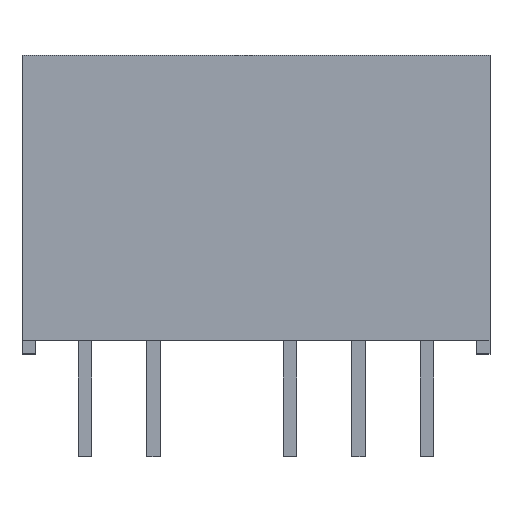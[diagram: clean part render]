
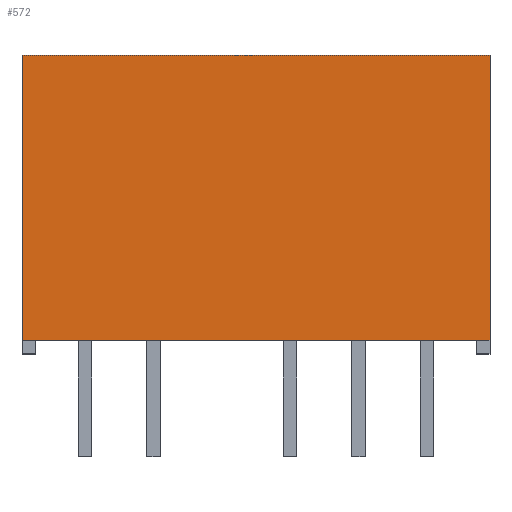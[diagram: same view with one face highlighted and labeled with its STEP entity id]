
A CAD part, top view. The second image highlights one B-rep face of the part: STEP entity #572.
In plain terms, the highlighted planar face has unit normal (0, 0, 1).
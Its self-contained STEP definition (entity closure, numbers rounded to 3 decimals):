
#138 = PLANE('',#139);
#139 = AXIS2_PLACEMENT_3D('',#140,#141,#142);
#140 = CARTESIAN_POINT('',(29.02,0.,14.035));
#141 = DIRECTION('',(-0.,0.,-1.));
#142 = DIRECTION('',(-1.,0.,0.));
#258 = VERTEX_POINT('',#259);
#259 = CARTESIAN_POINT('',(29.02,0.,14.035));
#294 = PLANE('',#295);
#295 = AXIS2_PLACEMENT_3D('',#296,#297,#298);
#296 = CARTESIAN_POINT('',(29.02,0.,6.285));
#297 = DIRECTION('',(1.,0.,0.));
#298 = DIRECTION('',(0.,0.,1.));
#312 = VERTEX_POINT('',#313);
#313 = CARTESIAN_POINT('',(28.52,0.,14.035));
#334 = EDGE_CURVE('',#258,#312,#335,.T.);
#335 = SURFACE_CURVE('',#336,(#340,#347),.PCURVE_S1.);
#336 = LINE('',#337,#338);
#337 = CARTESIAN_POINT('',(29.02,0.,14.035));
#338 = VECTOR('',#339,1.);
#339 = DIRECTION('',(-1.,0.,0.));
#340 = PCURVE('',#138,#341);
#341 = DEFINITIONAL_REPRESENTATION('',(#342),#346);
#342 = LINE('',#343,#344);
#343 = CARTESIAN_POINT('',(0.,0.));
#344 = VECTOR('',#345,1.);
#345 = DIRECTION('',(1.,0.));
#346 = ( GEOMETRIC_REPRESENTATION_CONTEXT(2) 
PARAMETRIC_REPRESENTATION_CONTEXT() REPRESENTATION_CONTEXT('2D SPACE',''
  ) );
#347 = PCURVE('',#348,#353);
#348 = PLANE('',#349);
#349 = AXIS2_PLACEMENT_3D('',#350,#351,#352);
#350 = CARTESIAN_POINT('',(29.02,0.,14.035));
#351 = DIRECTION('',(0.,0.,1.));
#352 = DIRECTION('',(-1.,0.,0.));
#353 = DEFINITIONAL_REPRESENTATION('',(#354),#358);
#354 = LINE('',#355,#356);
#355 = CARTESIAN_POINT('',(0.,-0.));
#356 = VECTOR('',#357,1.);
#357 = DIRECTION('',(1.,0.));
#358 = ( GEOMETRIC_REPRESENTATION_CONTEXT(2) 
PARAMETRIC_REPRESENTATION_CONTEXT() REPRESENTATION_CONTEXT('2D SPACE',''
  ) );
#380 = PLANE('',#381);
#381 = AXIS2_PLACEMENT_3D('',#382,#383,#384);
#382 = CARTESIAN_POINT('',(20.32,0.,10.16));
#383 = DIRECTION('',(0.,-1.,0.));
#384 = DIRECTION('',(1.,0.,0.));
#413 = PLANE('',#414);
#414 = AXIS2_PLACEMENT_3D('',#415,#416,#417);
#415 = CARTESIAN_POINT('',(11.62,0.,14.035));
#416 = DIRECTION('',(-1.,0.,0.));
#417 = DIRECTION('',(0.,0.,-1.));
#441 = PLANE('',#442);
#442 = AXIS2_PLACEMENT_3D('',#443,#444,#445);
#443 = CARTESIAN_POINT('',(20.32,10.6,10.16));
#444 = DIRECTION('',(0.,-1.,0.));
#445 = DIRECTION('',(1.,0.,0.));
#529 = VERTEX_POINT('',#530);
#530 = CARTESIAN_POINT('',(29.02,10.6,14.035));
#551 = EDGE_CURVE('',#258,#529,#552,.T.);
#552 = SURFACE_CURVE('',#553,(#557,#564),.PCURVE_S1.);
#553 = LINE('',#554,#555);
#554 = CARTESIAN_POINT('',(29.02,0.,14.035));
#555 = VECTOR('',#556,1.);
#556 = DIRECTION('',(0.,1.,0.));
#557 = PCURVE('',#294,#558);
#558 = DEFINITIONAL_REPRESENTATION('',(#559),#563);
#559 = LINE('',#560,#561);
#560 = CARTESIAN_POINT('',(7.75,0.));
#561 = VECTOR('',#562,1.);
#562 = DIRECTION('',(0.,-1.));
#563 = ( GEOMETRIC_REPRESENTATION_CONTEXT(2) 
PARAMETRIC_REPRESENTATION_CONTEXT() REPRESENTATION_CONTEXT('2D SPACE',''
  ) );
#564 = PCURVE('',#348,#565);
#565 = DEFINITIONAL_REPRESENTATION('',(#566),#570);
#566 = LINE('',#567,#568);
#567 = CARTESIAN_POINT('',(0.,0.));
#568 = VECTOR('',#569,1.);
#569 = DIRECTION('',(0.,-1.));
#570 = ( GEOMETRIC_REPRESENTATION_CONTEXT(2) 
PARAMETRIC_REPRESENTATION_CONTEXT() REPRESENTATION_CONTEXT('2D SPACE',''
  ) );
#572 = ADVANCED_FACE('',(#573),#348,.T.);
#573 = FACE_BOUND('',#574,.T.);
#574 = EDGE_LOOP('',(#575,#576,#599,#622,#650,#671));
#575 = ORIENTED_EDGE('',*,*,#551,.T.);
#576 = ORIENTED_EDGE('',*,*,#577,.T.);
#577 = EDGE_CURVE('',#529,#578,#580,.T.);
#578 = VERTEX_POINT('',#579);
#579 = CARTESIAN_POINT('',(11.62,10.6,14.035));
#580 = SURFACE_CURVE('',#581,(#585,#592),.PCURVE_S1.);
#581 = LINE('',#582,#583);
#582 = CARTESIAN_POINT('',(29.02,10.6,14.035));
#583 = VECTOR('',#584,1.);
#584 = DIRECTION('',(-1.,0.,0.));
#585 = PCURVE('',#348,#586);
#586 = DEFINITIONAL_REPRESENTATION('',(#587),#591);
#587 = LINE('',#588,#589);
#588 = CARTESIAN_POINT('',(0.,-10.6));
#589 = VECTOR('',#590,1.);
#590 = DIRECTION('',(1.,0.));
#591 = ( GEOMETRIC_REPRESENTATION_CONTEXT(2) 
PARAMETRIC_REPRESENTATION_CONTEXT() REPRESENTATION_CONTEXT('2D SPACE',''
  ) );
#592 = PCURVE('',#441,#593);
#593 = DEFINITIONAL_REPRESENTATION('',(#594),#598);
#594 = LINE('',#595,#596);
#595 = CARTESIAN_POINT('',(8.7,3.875));
#596 = VECTOR('',#597,1.);
#597 = DIRECTION('',(-1.,0.));
#598 = ( GEOMETRIC_REPRESENTATION_CONTEXT(2) 
PARAMETRIC_REPRESENTATION_CONTEXT() REPRESENTATION_CONTEXT('2D SPACE',''
  ) );
#599 = ORIENTED_EDGE('',*,*,#600,.F.);
#600 = EDGE_CURVE('',#601,#578,#603,.T.);
#601 = VERTEX_POINT('',#602);
#602 = CARTESIAN_POINT('',(11.62,0.,14.035));
#603 = SURFACE_CURVE('',#604,(#608,#615),.PCURVE_S1.);
#604 = LINE('',#605,#606);
#605 = CARTESIAN_POINT('',(11.62,0.,14.035));
#606 = VECTOR('',#607,1.);
#607 = DIRECTION('',(0.,1.,0.));
#608 = PCURVE('',#348,#609);
#609 = DEFINITIONAL_REPRESENTATION('',(#610),#614);
#610 = LINE('',#611,#612);
#611 = CARTESIAN_POINT('',(17.4,0.));
#612 = VECTOR('',#613,1.);
#613 = DIRECTION('',(0.,-1.));
#614 = ( GEOMETRIC_REPRESENTATION_CONTEXT(2) 
PARAMETRIC_REPRESENTATION_CONTEXT() REPRESENTATION_CONTEXT('2D SPACE',''
  ) );
#615 = PCURVE('',#413,#616);
#616 = DEFINITIONAL_REPRESENTATION('',(#617),#621);
#617 = LINE('',#618,#619);
#618 = CARTESIAN_POINT('',(0.,0.));
#619 = VECTOR('',#620,1.);
#620 = DIRECTION('',(0.,-1.));
#621 = ( GEOMETRIC_REPRESENTATION_CONTEXT(2) 
PARAMETRIC_REPRESENTATION_CONTEXT() REPRESENTATION_CONTEXT('2D SPACE',''
  ) );
#622 = ORIENTED_EDGE('',*,*,#623,.F.);
#623 = EDGE_CURVE('',#624,#601,#626,.T.);
#624 = VERTEX_POINT('',#625);
#625 = CARTESIAN_POINT('',(12.12,0.,14.035));
#626 = SURFACE_CURVE('',#627,(#631,#638),.PCURVE_S1.);
#627 = LINE('',#628,#629);
#628 = CARTESIAN_POINT('',(12.12,0.,14.035));
#629 = VECTOR('',#630,1.);
#630 = DIRECTION('',(-1.,0.,0.));
#631 = PCURVE('',#348,#632);
#632 = DEFINITIONAL_REPRESENTATION('',(#633),#637);
#633 = LINE('',#634,#635);
#634 = CARTESIAN_POINT('',(16.9,-0.));
#635 = VECTOR('',#636,1.);
#636 = DIRECTION('',(1.,0.));
#637 = ( GEOMETRIC_REPRESENTATION_CONTEXT(2) 
PARAMETRIC_REPRESENTATION_CONTEXT() REPRESENTATION_CONTEXT('2D SPACE',''
  ) );
#638 = PCURVE('',#639,#644);
#639 = PLANE('',#640);
#640 = AXIS2_PLACEMENT_3D('',#641,#642,#643);
#641 = CARTESIAN_POINT('',(12.12,0.,14.035));
#642 = DIRECTION('',(-0.,0.,-1.));
#643 = DIRECTION('',(-1.,0.,0.));
#644 = DEFINITIONAL_REPRESENTATION('',(#645),#649);
#645 = LINE('',#646,#647);
#646 = CARTESIAN_POINT('',(0.,0.));
#647 = VECTOR('',#648,1.);
#648 = DIRECTION('',(1.,0.));
#649 = ( GEOMETRIC_REPRESENTATION_CONTEXT(2) 
PARAMETRIC_REPRESENTATION_CONTEXT() REPRESENTATION_CONTEXT('2D SPACE',''
  ) );
#650 = ORIENTED_EDGE('',*,*,#651,.F.);
#651 = EDGE_CURVE('',#312,#624,#652,.T.);
#652 = SURFACE_CURVE('',#653,(#657,#664),.PCURVE_S1.);
#653 = LINE('',#654,#655);
#654 = CARTESIAN_POINT('',(29.02,0.,14.035));
#655 = VECTOR('',#656,1.);
#656 = DIRECTION('',(-1.,0.,0.));
#657 = PCURVE('',#348,#658);
#658 = DEFINITIONAL_REPRESENTATION('',(#659),#663);
#659 = LINE('',#660,#661);
#660 = CARTESIAN_POINT('',(0.,0.));
#661 = VECTOR('',#662,1.);
#662 = DIRECTION('',(1.,0.));
#663 = ( GEOMETRIC_REPRESENTATION_CONTEXT(2) 
PARAMETRIC_REPRESENTATION_CONTEXT() REPRESENTATION_CONTEXT('2D SPACE',''
  ) );
#664 = PCURVE('',#380,#665);
#665 = DEFINITIONAL_REPRESENTATION('',(#666),#670);
#666 = LINE('',#667,#668);
#667 = CARTESIAN_POINT('',(8.7,3.875));
#668 = VECTOR('',#669,1.);
#669 = DIRECTION('',(-1.,0.));
#670 = ( GEOMETRIC_REPRESENTATION_CONTEXT(2) 
PARAMETRIC_REPRESENTATION_CONTEXT() REPRESENTATION_CONTEXT('2D SPACE',''
  ) );
#671 = ORIENTED_EDGE('',*,*,#334,.F.);
